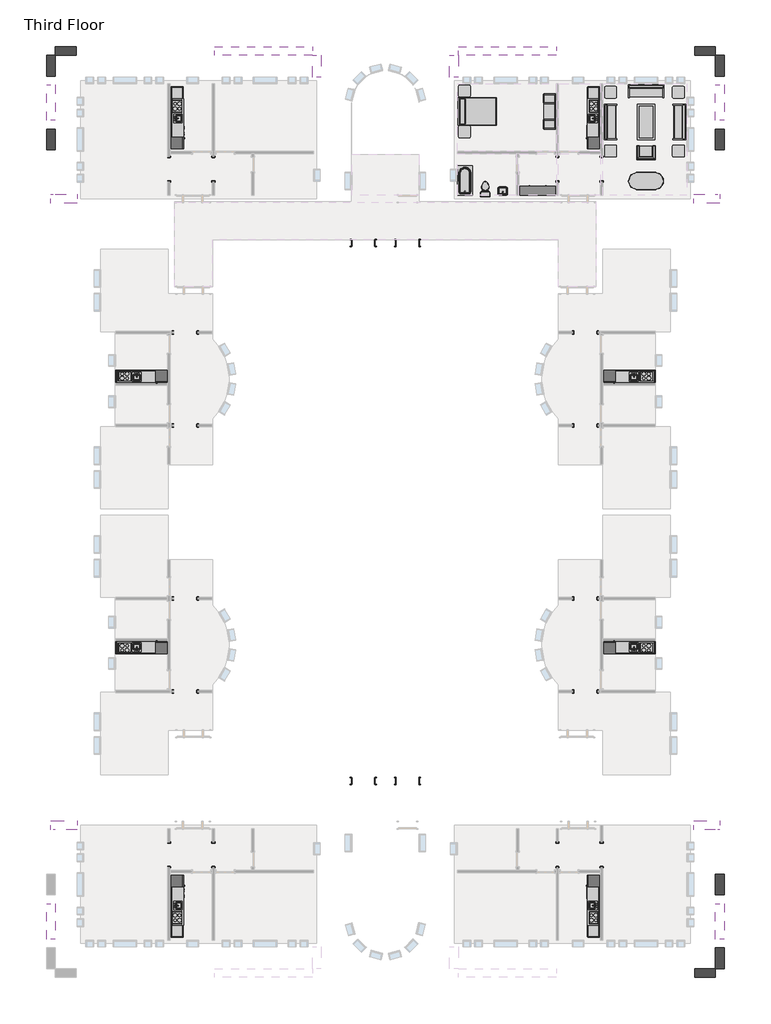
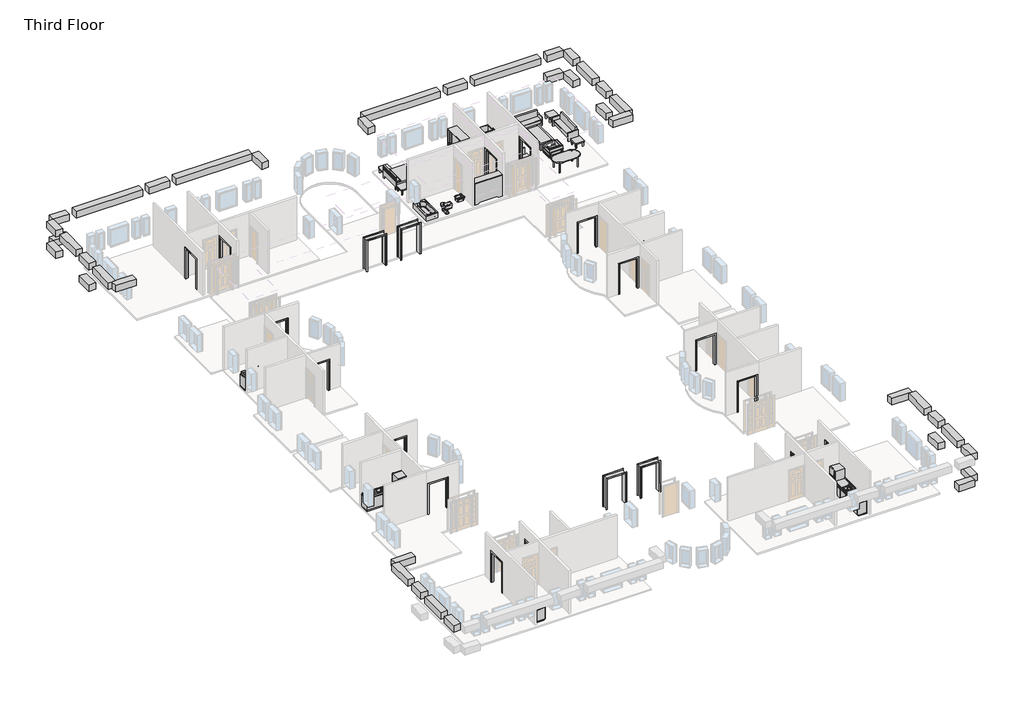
# One storey, part 4 of 4: 28 proxies, 21 beams, 15 furniture elements, 3 flow terminals.
"""IFC4 building model written with IfcOpenShell, lengths in millimetres."""

from ifc_helpers import new_model, si_unit, frame, origin, place, context, project, spatial, polyline, outline, extrude, faceted_brep, transform, mapped, element, save
from components import kitchenette_medium_5_9f73a4de, kitchenette_medium_5_952fb32b, proxy_64a468c4, proxy_b7eaed23, proxy_f44482cc, proxy_c3589814, proxy_d58c73d0, proxy_1659ed5c, flow_terminal_0aeb31e3, toilet_domestic_3d_toilet_domestic_3d_f7549cf7, toilet_domestic_3d_toilet_domestic_3d_183bbd19, tub_rectangular_3d_tub_rectangular_3d_5e45a89b, furniture_096e7f55, chair_corbu_chair_corbu_2764bdef, furniture_7c473f12, furniture_ddc78764, furniture_4ef38d96, furniture_cd93a443, furniture_2c34a4f9, furniture_3a588284, furniture_1befe2a2

model = new_model("IFC4")

# Units and contexts
model_context = context("Model", 3, world=origin())
ifc_project = project(units=[si_unit("LENGTHUNIT", "METRE", prefix="MILLI")], contexts=[model_context])

# Site, building, storey
site = spatial("IfcSite", under=ifc_project)
building = spatial("IfcBuilding", under=site)
storey = spatial("IfcBuildingStorey", under=building, Name="Third Floor", Elevation=6096.0)

# Beams
placement = place(None, origin())
element("IfcBeam", 1, ObjectType="Concrete-Rectangular Beam : 18 x 18", at=placement, inside=storey, context=model_context, shape_type="Brep", body=[
    faceted_brep([(976.3410437, 4121.6316867, 9144.0), (976.3410437, 4578.8316867, 9144.0), (976.3410437, 4578.8316867, 8686.8), (976.3410437, 4121.6316867, 8686.8), (2322.5410437, 4121.6316867, 9144.0), (2322.5410437, 4578.8316867, 9144.0), (2093.9410437, 4578.8316867, 9144.0), (2322.5410437, 4578.8316867, 8686.8), (2093.9410437, 4578.8316867, 8686.8), (2322.5410437, 4121.6316867, 8686.8)], [[[0, 1, 2, 3]], [[1, 0, 4, 5, 6]], [[2, 1, 6, 5, 7, 8]], [[3, 2, 8, 7, 9]], [[0, 3, 9, 4]], [[4, 9, 7, 5]]]),
])
element("IfcBeam", 2, ObjectType="Concrete-Rectangular Beam : 18 x 18", at=placement, inside=storey, context=model_context, shape_type="SweptSolid", body=[
    extrude(outline(polyline([(1027.1410437, 11741.6316867), (1027.1410437, 12198.8316867), (2093.9410437, 12198.8316867), (2093.9410437, 11741.6316867), (1027.1410437, 11741.6316867)])), frame((0.0, 0.0, 7162.8), z_axis=(0.0, 0.0, 1.0), x_axis=(1.0, 0.0, 0.0)), (0.0, 0.0, 1.0), 457.2),
])
element("IfcBeam", 3, ObjectType="Concrete-Rectangular Beam : 18 x 18", at=placement, inside=storey, context=model_context, shape_type="SweptSolid", body=[
    extrude(outline(polyline([(2551.1410437, 10674.8316867), (2093.9410437, 10674.8316867), (2093.9410437, 11741.6316867), (2551.1410437, 11741.6316867), (2551.1410437, 10674.8316867)])), frame((0.0, 0.0, 7162.8), z_axis=(0.0, 0.0, 1.0), x_axis=(1.0, 0.0, 0.0)), (0.0, 0.0, 1.0), 457.2),
])
element("IfcBeam", 4, ObjectType="Concrete-Rectangular Beam : 18 x 18", at=placement, inside=storey, context=model_context, shape_type="SweptSolid", body=[
    extrude(outline(polyline([(2551.1410437, 6864.8316867), (2093.9410437, 6864.8316867), (2093.9410437, 7931.6316867), (2551.1410437, 7931.6316867), (2551.1410437, 6864.8316867)])), frame((0.0, 0.0, 7162.8), z_axis=(0.0, 0.0, 1.0), x_axis=(1.0, 0.0, 0.0)), (0.0, 0.0, 1.0), 457.2),
])
element("IfcBeam", 5, ObjectType="Concrete-Rectangular Beam : 18 x 18", at=placement, inside=storey, context=model_context, shape_type="SweptSolid", body=[
    extrude(outline(polyline([(2093.9410437, 12198.8316867), (2093.9410437, 11741.6316867), (1027.1410437, 11741.6316867), (1027.1410437, 12198.8316867), (2093.9410437, 12198.8316867)])), frame((0.0, 0.0, 8686.8), z_axis=(0.0, 0.0, 1.0), x_axis=(1.0, 0.0, 0.0)), (0.0, 0.0, 1.0), 457.2),
    extrude(outline(polyline([(-11164.8589563, 11741.6316867), (-11164.8589563, 12198.8316867), (-6122.9589563, 12198.8316867), (-6122.9589563, 11741.6316867), (-11164.8589563, 11741.6316867)])), frame((0.0, 0.0, 8686.8), z_axis=(0.0, 0.0, 1.0), x_axis=(1.0, 0.0, 0.0)), (0.0, 0.0, 1.0), 457.2),
    extrude(outline(polyline([(569.9410437, 12198.8316867), (569.9410437, 11741.6316867), (-3862.3589563, 11741.6316867), (-3862.3589563, 12198.8316867), (569.9410437, 12198.8316867)])), frame((0.0, 0.0, 8686.8), z_axis=(0.0, 0.0, 1.0), x_axis=(1.0, 0.0, 0.0)), (0.0, 0.0, 1.0), 457.2),
    extrude(outline(polyline([(-4319.5589563, 12198.8316867), (-4319.5589563, 11741.6316867), (-5665.7589563, 11741.6316867), (-5665.7589563, 12198.8316867), (-4319.5589563, 12198.8316867)])), frame((0.0, 0.0, 8686.8), z_axis=(0.0, 0.0, 1.0), x_axis=(1.0, 0.0, 0.0)), (0.0, 0.0, 1.0), 457.2),
])
element("IfcBeam", 6, ObjectType="Concrete-Rectangular Beam : 18 x 18", at=placement, inside=storey, context=model_context, shape_type="Brep", body=[
    faceted_brep([(2093.9410437, 4578.8316867, 9144.0), (2322.5410437, 4578.8316867, 9144.0), (2551.1410437, 4578.8316867, 9144.0), (2551.1410437, 6407.6316867, 9144.0), (2093.9410437, 6407.6316867, 9144.0), (2093.9410437, 4578.8316867, 8686.8), (2093.9410437, 6407.6316867, 8686.8), (2551.1410437, 4578.8316867, 8686.8), (2322.5410437, 4578.8316867, 8686.8), (2551.1410437, 6407.6316867, 8686.8)], [[[0, 1, 2, 3, 4]], [[5, 0, 4, 6]], [[7, 8, 5, 6, 9]], [[2, 7, 9, 3]], [[2, 1, 0, 5, 8, 7]], [[4, 3, 9, 6]]]),
    faceted_brep([(2551.1410437, 11741.6316867, 9144.0), (2551.1410437, 11741.6316867, 8686.8), (2093.9410437, 11741.6316867, 8686.8), (2093.9410437, 11741.6316867, 9144.0), (2551.1410437, 10674.8316867, 9144.0), (2093.9410437, 10674.8316867, 9144.0), (2093.9410437, 10674.8316867, 8686.8), (2551.1410437, 10674.8316867, 8686.8)], [[[0, 1, 2, 3]], [[4, 5, 6, 7]], [[0, 3, 5, 4]], [[3, 2, 6, 5]], [[2, 1, 7, 6]], [[1, 0, 4, 7]]]),
    faceted_brep([(2093.9410437, 10217.6316867, 9144.0), (2551.1410437, 10217.6316867, 9144.0), (2551.1410437, 10217.6316867, 8686.8), (2093.9410437, 10217.6316867, 8686.8), (2551.1410437, 8388.8316867, 9144.0), (2093.9410437, 8388.8316867, 9144.0), (2093.9410437, 8388.8316867, 8686.8), (2551.1410437, 8388.8316867, 8686.8)], [[[0, 1, 2, 3]], [[4, 5, 6, 7]], [[1, 0, 5, 4]], [[0, 3, 6, 5]], [[3, 2, 7, 6]], [[2, 1, 4, 7]]]),
    faceted_brep([(2551.1410437, 6864.8316867, 9144.0), (2093.9410437, 6864.8316867, 9144.0), (2093.9410437, 6864.8316867, 8686.8), (2551.1410437, 6864.8316867, 8686.8), (2551.1410437, 7931.6316867, 9144.0), (2093.9410437, 7931.6316867, 9144.0), (2093.9410437, 7931.6316867, 8686.8), (2551.1410437, 7931.6316867, 8686.8)], [[[0, 1, 2, 3]], [[1, 0, 4, 5]], [[2, 1, 5, 6]], [[3, 2, 6, 7]], [[0, 3, 7, 4]], [[5, 4, 7, 6]]]),
])
element("IfcBeam", 7, ObjectType="Concrete-Rectangular Beam : 18 x 18", at=placement, inside=storey, context=model_context, shape_type="SweptSolid", body=[
    extrude(outline(polyline([(-11164.8589563, 10624.0316867), (-11622.0589563, 10624.0316867), (-11622.0589563, 11741.6316867), (-11164.8589563, 11741.6316867), (-11164.8589563, 10624.0316867)])), frame((0.0, 0.0, 8686.8), z_axis=(0.0, 0.0, 1.0), x_axis=(1.0, 0.0, 0.0)), (0.0, 0.0, 1.0), 457.2),
])
element("IfcBeam", 8, ObjectType="Concrete-Rectangular Beam : 18 x 18", at=placement, inside=storey, context=model_context, shape_type="Brep", body=[
    faceted_brep([(-30846.6839563, 4121.6316867, 9144.0), (-30846.6839563, 4121.6316867, 8686.8), (-30846.6839563, 4578.8316867, 8686.8), (-30846.6839563, 4578.8316867, 9144.0), (-31964.2839563, 4578.8316867, 9144.0), (-32192.8839563, 4578.8316867, 9144.0), (-32192.8839563, 4121.6316867, 9144.0), (-31964.2839563, 4578.8316867, 8686.8), (-32192.8839563, 4578.8316867, 8686.8), (-32192.8839563, 4121.6316867, 8686.8)], [[[0, 1, 2, 3]], [[3, 4, 5, 6, 0]], [[2, 7, 8, 5, 4, 3]], [[1, 9, 8, 7, 2]], [[0, 6, 9, 1]], [[6, 5, 8, 9]]]),
])
element("IfcBeam", 9, ObjectType="Concrete-Rectangular Beam : 18 x 18", at=placement, inside=storey, context=model_context, shape_type="SweptSolid", body=[
    extrude(outline(polyline([(-30897.4839563, 11741.6316867), (-31964.2839563, 11741.6316867), (-31964.2839563, 12198.8316867), (-30897.4839563, 12198.8316867), (-30897.4839563, 11741.6316867)])), frame((0.0, 0.0, 7162.8), z_axis=(0.0, 0.0, 1.0), x_axis=(1.0, 0.0, 0.0)), (0.0, 0.0, 1.0), 457.2),
])
element("IfcBeam", 10, ObjectType="Concrete-Rectangular Beam : 18 x 18", at=placement, inside=storey, context=model_context, shape_type="SweptSolid", body=[
    extrude(outline(polyline([(-32421.4839563, 10674.8316867), (-32421.4839563, 11741.6316867), (-31964.2839563, 11741.6316867), (-31964.2839563, 10674.8316867), (-32421.4839563, 10674.8316867)])), frame((0.0, 0.0, 7162.8), z_axis=(0.0, 0.0, 1.0), x_axis=(1.0, 0.0, 0.0)), (0.0, 0.0, 1.0), 457.2),
])
element("IfcBeam", 11, ObjectType="Concrete-Rectangular Beam : 18 x 18", at=placement, inside=storey, context=model_context, shape_type="SweptSolid", body=[
    extrude(outline(polyline([(-32421.4839563, 6864.8316867), (-32421.4839563, 7931.6316867), (-31964.2839563, 7931.6316867), (-31964.2839563, 6864.8316867), (-32421.4839563, 6864.8316867)])), frame((0.0, 0.0, 7162.8), z_axis=(0.0, 0.0, 1.0), x_axis=(1.0, 0.0, 0.0)), (0.0, 0.0, 1.0), 457.2),
])
element("IfcBeam", 12, ObjectType="Concrete-Rectangular Beam : 18 x 18", at=placement, inside=storey, context=model_context, shape_type="SweptSolid", body=[
    extrude(outline(polyline([(-31964.2839563, 11741.6316867), (-31964.2839563, 12198.8316867), (-30897.4839563, 12198.8316867), (-30897.4839563, 11741.6316867), (-31964.2839563, 11741.6316867)])), frame((0.0, 0.0, 8686.8), z_axis=(0.0, 0.0, 1.0), x_axis=(1.0, 0.0, 0.0)), (0.0, 0.0, 1.0), 457.2),
    extrude(outline(polyline([(-18705.4839563, 12198.8316867), (-18705.4839563, 11741.6316867), (-23747.3839563, 11741.6316867), (-23747.3839563, 12198.8316867), (-18705.4839563, 12198.8316867)])), frame((0.0, 0.0, 8686.8), z_axis=(0.0, 0.0, 1.0), x_axis=(1.0, 0.0, 0.0)), (0.0, 0.0, 1.0), 457.2),
    extrude(outline(polyline([(-30440.2839563, 11741.6316867), (-30440.2839563, 12198.8316867), (-26007.9839563, 12198.8316867), (-26007.9839563, 11741.6316867), (-30440.2839563, 11741.6316867)])), frame((0.0, 0.0, 8686.8), z_axis=(0.0, 0.0, 1.0), x_axis=(1.0, 0.0, 0.0)), (0.0, 0.0, 1.0), 457.2),
    extrude(outline(polyline([(-25550.7839563, 11741.6316867), (-25550.7839563, 12198.8316867), (-24204.5839563, 12198.8316867), (-24204.5839563, 11741.6316867), (-25550.7839563, 11741.6316867)])), frame((0.0, 0.0, 8686.8), z_axis=(0.0, 0.0, 1.0), x_axis=(1.0, 0.0, 0.0)), (0.0, 0.0, 1.0), 457.2),
])
element("IfcBeam", 13, ObjectType="Concrete-Rectangular Beam : 18 x 18", at=placement, inside=storey, context=model_context, shape_type="Brep", body=[
    faceted_brep([(-32421.4839563, 4578.8316867, 9144.0), (-32192.8839563, 4578.8316867, 9144.0), (-31964.2839563, 4578.8316867, 9144.0), (-31964.2839563, 6407.6316867, 9144.0), (-32421.4839563, 6407.6316867, 9144.0), (-31964.2839563, 4578.8316867, 8686.8), (-31964.2839563, 6407.6316867, 8686.8), (-32192.8839563, 4578.8316867, 8686.8), (-32421.4839563, 4578.8316867, 8686.8), (-32421.4839563, 6407.6316867, 8686.8)], [[[0, 1, 2, 3, 4]], [[2, 5, 6, 3]], [[5, 7, 8, 9, 6]], [[8, 0, 4, 9]], [[0, 8, 7, 5, 2, 1]], [[4, 3, 6, 9]]]),
    faceted_brep([(-32421.4839563, 11741.6316867, 9144.0), (-31964.2839563, 11741.6316867, 9144.0), (-31964.2839563, 11741.6316867, 8686.8), (-32421.4839563, 11741.6316867, 8686.8), (-31964.2839563, 10674.8316867, 9144.0), (-32421.4839563, 10674.8316867, 9144.0), (-32421.4839563, 10674.8316867, 8686.8), (-31964.2839563, 10674.8316867, 8686.8)], [[[0, 1, 2, 3]], [[4, 5, 6, 7]], [[1, 0, 5, 4]], [[2, 1, 4, 7]], [[3, 2, 7, 6]], [[0, 3, 6, 5]]]),
    faceted_brep([(-32421.4839563, 10217.6316867, 9144.0), (-31964.2839563, 10217.6316867, 9144.0), (-31964.2839563, 10217.6316867, 8686.8), (-32421.4839563, 10217.6316867, 8686.8), (-31964.2839563, 8388.8316867, 9144.0), (-32421.4839563, 8388.8316867, 9144.0), (-32421.4839563, 8388.8316867, 8686.8), (-31964.2839563, 8388.8316867, 8686.8)], [[[0, 1, 2, 3]], [[4, 5, 6, 7]], [[1, 0, 5, 4]], [[2, 1, 4, 7]], [[3, 2, 7, 6]], [[0, 3, 6, 5]]]),
    faceted_brep([(-31964.2839563, 6864.8316867, 9144.0), (-32421.4839563, 6864.8316867, 9144.0), (-32421.4839563, 6864.8316867, 8686.8), (-31964.2839563, 6864.8316867, 8686.8), (-31964.2839563, 7931.6316867, 9144.0), (-32421.4839563, 7931.6316867, 9144.0), (-31964.2839563, 7931.6316867, 8686.8), (-32421.4839563, 7931.6316867, 8686.8)], [[[0, 1, 2, 3]], [[1, 0, 4, 5]], [[0, 3, 6, 4]], [[3, 2, 7, 6]], [[2, 1, 5, 7]], [[5, 4, 6, 7]]]),
])
element("IfcBeam", 14, ObjectType="Concrete-Rectangular Beam : 18 x 18", at=placement, inside=storey, context=model_context, shape_type="SweptSolid", body=[
    extrude(outline(polyline([(-18248.2839563, 10624.0316867), (-18705.4839563, 10624.0316867), (-18705.4839563, 11741.6316867), (-18248.2839563, 11741.6316867), (-18248.2839563, 10624.0316867)])), frame((0.0, 0.0, 8686.8), z_axis=(0.0, 0.0, 1.0), x_axis=(1.0, 0.0, 0.0)), (0.0, 0.0, 1.0), 457.2),
])
element("IfcBeam", 15, ObjectType="Concrete-Rectangular Beam : 18 x 18", at=placement, inside=storey, context=model_context, shape_type="Brep", body=[
    faceted_brep([(976.3410437, -27729.9683133, 9144.0), (976.3410437, -27729.9683133, 8686.8), (976.3410437, -28187.1683133, 8686.8), (976.3410437, -28187.1683133, 9144.0), (2093.9410437, -28187.1683133, 9144.0), (2322.5410437, -28187.1683133, 9144.0), (2322.5410437, -27729.9683133, 9144.0), (2093.9410437, -28187.1683133, 8686.8), (2322.5410437, -28187.1683133, 8686.8), (2322.5410437, -27729.9683133, 8686.8)], [[[0, 1, 2, 3]], [[3, 4, 5, 6, 0]], [[2, 7, 8, 5, 4, 3]], [[1, 9, 8, 7, 2]], [[0, 6, 9, 1]], [[6, 5, 8, 9]]]),
])
element("IfcBeam", 16, ObjectType="Concrete-Rectangular Beam : 18 x 18", at=placement, inside=storey, context=model_context, shape_type="SweptSolid", body=[
    extrude(outline(polyline([(1027.1410437, -35349.9683133), (2093.9410437, -35349.9683133), (2093.9410437, -35807.1683133), (1027.1410437, -35807.1683133), (1027.1410437, -35349.9683133)])), frame((0.0, 0.0, 7162.8), z_axis=(0.0, 0.0, 1.0), x_axis=(1.0, 0.0, 0.0)), (0.0, 0.0, 1.0), 457.2),
])
element("IfcBeam", 17, ObjectType="Concrete-Rectangular Beam : 18 x 18", at=placement, inside=storey, context=model_context, shape_type="SweptSolid", body=[
    extrude(outline(polyline([(2551.1410437, -34283.1683133), (2551.1410437, -35349.9683133), (2093.9410437, -35349.9683133), (2093.9410437, -34283.1683133), (2551.1410437, -34283.1683133)])), frame((0.0, 0.0, 7162.8), z_axis=(0.0, 0.0, 1.0), x_axis=(1.0, 0.0, 0.0)), (0.0, 0.0, 1.0), 457.2),
])
element("IfcBeam", 18, ObjectType="Concrete-Rectangular Beam : 18 x 18", at=placement, inside=storey, context=model_context, shape_type="SweptSolid", body=[
    extrude(outline(polyline([(2551.1410437, -30473.1683133), (2551.1410437, -31539.9683133), (2093.9410437, -31539.9683133), (2093.9410437, -30473.1683133), (2551.1410437, -30473.1683133)])), frame((0.0, 0.0, 7162.8), z_axis=(0.0, 0.0, 1.0), x_axis=(1.0, 0.0, 0.0)), (0.0, 0.0, 1.0), 457.2),
])
element("IfcBeam", 19, ObjectType="Concrete-Rectangular Beam : 18 x 18", at=placement, inside=storey, context=model_context, shape_type="Brep", body=[
    faceted_brep([(2551.1410437, -28187.1683133, 9144.0), (2322.5410437, -28187.1683133, 9144.0), (2093.9410437, -28187.1683133, 9144.0), (2093.9410437, -30015.9683133, 9144.0), (2551.1410437, -30015.9683133, 9144.0), (2093.9410437, -28187.1683133, 8686.8), (2093.9410437, -30015.9683133, 8686.8), (2322.5410437, -28187.1683133, 8686.8), (2551.1410437, -28187.1683133, 8686.8), (2551.1410437, -30015.9683133, 8686.8)], [[[0, 1, 2, 3, 4]], [[2, 5, 6, 3]], [[5, 7, 8, 9, 6]], [[8, 0, 4, 9]], [[0, 8, 7, 5, 2, 1]], [[4, 3, 6, 9]]]),
    faceted_brep([(2551.1410437, -35349.9683133, 9144.0), (2093.9410437, -35349.9683133, 9144.0), (2093.9410437, -35349.9683133, 8686.8), (2551.1410437, -35349.9683133, 8686.8), (2093.9410437, -34283.1683133, 9144.0), (2551.1410437, -34283.1683133, 9144.0), (2551.1410437, -34283.1683133, 8686.8), (2093.9410437, -34283.1683133, 8686.8)], [[[0, 1, 2, 3]], [[4, 5, 6, 7]], [[1, 0, 5, 4]], [[2, 1, 4, 7]], [[3, 2, 7, 6]], [[0, 3, 6, 5]]]),
    faceted_brep([(2551.1410437, -33825.9683133, 9144.0), (2093.9410437, -33825.9683133, 9144.0), (2093.9410437, -33825.9683133, 8686.8), (2551.1410437, -33825.9683133, 8686.8), (2093.9410437, -31997.1683133, 9144.0), (2551.1410437, -31997.1683133, 9144.0), (2551.1410437, -31997.1683133, 8686.8), (2093.9410437, -31997.1683133, 8686.8)], [[[0, 1, 2, 3]], [[4, 5, 6, 7]], [[1, 0, 5, 4]], [[2, 1, 4, 7]], [[3, 2, 7, 6]], [[0, 3, 6, 5]]]),
    faceted_brep([(2093.9410437, -30473.1683133, 9144.0), (2551.1410437, -30473.1683133, 9144.0), (2551.1410437, -30473.1683133, 8686.8), (2093.9410437, -30473.1683133, 8686.8), (2093.9410437, -31539.9683133, 9144.0), (2551.1410437, -31539.9683133, 9144.0), (2093.9410437, -31539.9683133, 8686.8), (2551.1410437, -31539.9683133, 8686.8)], [[[0, 1, 2, 3]], [[1, 0, 4, 5]], [[0, 3, 6, 4]], [[3, 2, 7, 6]], [[2, 1, 5, 7]], [[5, 4, 6, 7]]]),
])
element("IfcBeam", 20, ObjectType="Concrete-Rectangular Beam : 18 x 18", at=placement, inside=storey, context=model_context, shape_type="Brep", body=[
    faceted_brep([(-30846.6839563, -27729.9683133, 9144.0), (-30846.6839563, -28187.1683133, 9144.0), (-30846.6839563, -28187.1683133, 8686.8), (-30846.6839563, -27729.9683133, 8686.8), (-32192.8839563, -27729.9683133, 9144.0), (-32192.8839563, -28187.1683133, 9144.0), (-31964.2839563, -28187.1683133, 9144.0), (-32192.8839563, -28187.1683133, 8686.8), (-31964.2839563, -28187.1683133, 8686.8), (-32192.8839563, -27729.9683133, 8686.8)], [[[0, 1, 2, 3]], [[1, 0, 4, 5, 6]], [[2, 1, 6, 5, 7, 8]], [[3, 2, 8, 7, 9]], [[0, 3, 9, 4]], [[4, 9, 7, 5]]]),
])
element("IfcBeam", 21, ObjectType="Concrete-Rectangular Beam : 18 x 18", at=placement, inside=storey, context=model_context, shape_type="Brep", body=[
    faceted_brep([(-31964.2839563, -28187.1683133, 9144.0), (-32192.8839563, -28187.1683133, 9144.0), (-32421.4839563, -28187.1683133, 9144.0), (-32421.4839563, -30015.9683133, 9144.0), (-31964.2839563, -30015.9683133, 9144.0), (-31964.2839563, -28187.1683133, 8686.8), (-31964.2839563, -30015.9683133, 8686.8), (-32421.4839563, -28187.1683133, 8686.8), (-32192.8839563, -28187.1683133, 8686.8), (-32421.4839563, -30015.9683133, 8686.8)], [[[0, 1, 2, 3, 4]], [[5, 0, 4, 6]], [[7, 8, 5, 6, 9]], [[2, 7, 9, 3]], [[2, 1, 0, 5, 8, 7]], [[4, 3, 9, 6]]]),
    faceted_brep([(-32421.4839563, -35349.9683133, 9144.0), (-32421.4839563, -35349.9683133, 8686.8), (-31964.2839563, -35349.9683133, 8686.8), (-31964.2839563, -35349.9683133, 9144.0), (-32421.4839563, -34283.1683133, 9144.0), (-31964.2839563, -34283.1683133, 9144.0), (-31964.2839563, -34283.1683133, 8686.8), (-32421.4839563, -34283.1683133, 8686.8)], [[[0, 1, 2, 3]], [[4, 5, 6, 7]], [[0, 3, 5, 4]], [[3, 2, 6, 5]], [[2, 1, 7, 6]], [[1, 0, 4, 7]]]),
    faceted_brep([(-31964.2839563, -33825.9683133, 9144.0), (-32421.4839563, -33825.9683133, 9144.0), (-32421.4839563, -33825.9683133, 8686.8), (-31964.2839563, -33825.9683133, 8686.8), (-32421.4839563, -31997.1683133, 9144.0), (-31964.2839563, -31997.1683133, 9144.0), (-31964.2839563, -31997.1683133, 8686.8), (-32421.4839563, -31997.1683133, 8686.8)], [[[0, 1, 2, 3]], [[4, 5, 6, 7]], [[1, 0, 5, 4]], [[0, 3, 6, 5]], [[3, 2, 7, 6]], [[2, 1, 4, 7]]]),
    faceted_brep([(-32421.4839563, -30473.1683133, 9144.0), (-31964.2839563, -30473.1683133, 9144.0), (-31964.2839563, -30473.1683133, 8686.8), (-32421.4839563, -30473.1683133, 8686.8), (-32421.4839563, -31539.9683133, 9144.0), (-31964.2839563, -31539.9683133, 9144.0), (-31964.2839563, -31539.9683133, 8686.8), (-32421.4839563, -31539.9683133, 8686.8)], [[[0, 1, 2, 3]], [[1, 0, 4, 5]], [[2, 1, 5, 6]], [[3, 2, 6, 7]], [[0, 3, 7, 4]], [[5, 4, 7, 6]]]),
])

# Proxies
kitchenette_medium_5_shape = kitchenette_medium_5_9f73a4de(model_context)
element("IfcBuildingElementProxy", 22, Name="Kitchenette - Medium : 5'", ObjectType="Kitchenette - Medium : 5'", at=placement, inside=storey, context=model_context, shape_type="MappedRepresentation", body=[
    mapped(kitchenette_medium_5_shape, transform((-28112.6966612, -4494.4827414, 6096.0), x_axis=(1.0, 0.0, 0.0), y_axis=(0.0, 1.0, 0.0), z_axis=(0.0, 0.0, 1.0))),
])
element("IfcBuildingElementProxy", 23, Name="Kitchenette - Medium : 5'", ObjectType="Kitchenette - Medium : 5'", at=placement, inside=storey, context=model_context, shape_type="MappedRepresentation", body=[
    mapped(kitchenette_medium_5_shape, transform((-1757.6462514, -19113.8538852, 6096.0), x_axis=(-1.0, 0.0, 0.0), y_axis=(0.0, -1.0, 0.0), z_axis=(0.0, 0.0, 1.0))),
])
kitchenette_medium_5_2_shape = kitchenette_medium_5_952fb32b(model_context)
element("IfcBuildingElementProxy", 24, Name="Kitchenette - Medium : 5'", ObjectType="Kitchenette - Medium : 5'", at=placement, inside=storey, context=model_context, shape_type="MappedRepresentation", body=[
    mapped(kitchenette_medium_5_2_shape, transform((-1757.6462514, -4494.4827414, 6096.0), x_axis=(-1.0, 0.0, 0.0), y_axis=(0.0, -1.0, 0.0), z_axis=(0.0, 0.0, 1.0))),
])
element("IfcBuildingElementProxy", 25, Name="Kitchenette - Medium : 5'", ObjectType="Kitchenette - Medium : 5'", at=placement, inside=storey, context=model_context, shape_type="MappedRepresentation", body=[
    mapped(kitchenette_medium_5_2_shape, transform((-28112.6966612, -19113.8538852, 6096.0), x_axis=(1.0, 0.0, 0.0), y_axis=(0.0, 1.0, 0.0), z_axis=(0.0, 0.0, 1.0))),
])
proxy_shape = proxy_64a468c4(model_context)
element("IfcBuildingElementProxy", 26, Name="Kitchenette - Medium : 8'6\"", ObjectType="Kitchenette - Medium : 8'6\"", at=placement, inside=storey, context=model_context, shape_type="MappedRepresentation", body=[
    mapped(proxy_shape, transform((-3887.7589563, 8837.7956433, 6096.0), x_axis=(0.0, -1.0, 0.0), y_axis=(1.0, 0.0, 0.0), z_axis=(0.0, 0.0, 1.0))),
])
element("IfcBuildingElementProxy", 27, Name="Kitchenette - Medium : 8'6\"", ObjectType="Kitchenette - Medium : 8'6\"", at=placement, inside=storey, context=model_context, shape_type="MappedRepresentation", body=[
    mapped(proxy_shape, transform((-25982.5839563, -32446.1322699, 6096.0), x_axis=(0.0, 1.0, 0.0), y_axis=(-1.0, 0.0, 0.0), z_axis=(0.0, 0.0, 1.0))),
])
proxy_2_shape = proxy_b7eaed23(model_context)
element("IfcBuildingElementProxy", 28, Name="Kitchenette - Medium : 8'6\"", ObjectType="Kitchenette - Medium : 8'6\"", at=placement, inside=storey, context=model_context, shape_type="MappedRepresentation", body=[
    mapped(proxy_2_shape, transform((-25982.5839563, 8837.7956433, 6096.0), x_axis=(0.0, -1.0, 0.0), y_axis=(1.0, 0.0, 0.0), z_axis=(0.0, 0.0, 1.0))),
])
element("IfcBuildingElementProxy", 29, Name="Kitchenette - Medium : 8'6\"", ObjectType="Kitchenette - Medium : 8'6\"", at=placement, inside=storey, context=model_context, shape_type="MappedRepresentation", body=[
    mapped(proxy_2_shape, transform((-3887.7589563, -32446.1322699, 6096.0), x_axis=(0.0, 1.0, 0.0), y_axis=(-1.0, 0.0, 0.0), z_axis=(0.0, 0.0, 1.0))),
])
proxy_3_shape = proxy_f44482cc(model_context)
element("IfcBuildingElementProxy", 30, Name="Opening-Cased : 48\" x 84\"", ObjectType="Opening-Cased : 48\" x 84\"", at=placement, inside=storey, context=model_context, shape_type="MappedRepresentation", body=[
    mapped(proxy_3_shape, transform((-3773.4589563, 5882.4203434, 6096.0), x_axis=(0.0, 1.0, 0.0), y_axis=(-1.0, 0.0, 0.0), z_axis=(0.0, 0.0, 1.0))),
])
element("IfcBuildingElementProxy", 31, Name="Opening-Cased : 48\" x 84\"", ObjectType="Opening-Cased : 48\" x 84\"", at=placement, inside=storey, context=model_context, shape_type="MappedRepresentation", body=[
    mapped(proxy_3_shape, transform((-6059.4589563, 5866.04303, 6096.0), x_axis=(0.0, -1.0, 0.0), y_axis=(1.0, 0.0, 0.0), z_axis=(0.0, 0.0, 1.0))),
])
element("IfcBuildingElementProxy", 32, Name="Opening-Cased : 48\" x 84\"", ObjectType="Opening-Cased : 48\" x 84\"", at=placement, inside=storey, context=model_context, shape_type="MappedRepresentation", body=[
    mapped(proxy_3_shape, transform((-25250.4952996, -7344.8808133, 6096.0), x_axis=(1.0, 0.0, 0.0), y_axis=(0.0, 1.0, 0.0), z_axis=(0.0, 0.0, 1.0))),
])
element("IfcBuildingElementProxy", 33, Name="Opening-Cased : 48\" x 84\"", ObjectType="Opening-Cased : 48\" x 84\"", at=placement, inside=storey, context=model_context, shape_type="MappedRepresentation", body=[
    mapped(proxy_3_shape, transform((-25266.872613, -2547.4558133, 6096.0), x_axis=(-1.0, 0.0, 0.0), y_axis=(0.0, -1.0, 0.0), z_axis=(0.0, 0.0, 1.0))),
])
element("IfcBuildingElementProxy", 34, Name="Opening-Cased : 48\" x 84\"", ObjectType="Opening-Cased : 48\" x 84\"", at=placement, inside=storey, context=model_context, shape_type="MappedRepresentation", body=[
    mapped(proxy_3_shape, transform((-4619.847613, -16263.4558133, 6096.0), x_axis=(-1.0, 0.0, 0.0), y_axis=(0.0, -1.0, 0.0), z_axis=(0.0, 0.0, 1.0))),
])
element("IfcBuildingElementProxy", 35, Name="Opening-Cased : 48\" x 84\"", ObjectType="Opening-Cased : 48\" x 84\"", at=placement, inside=storey, context=model_context, shape_type="MappedRepresentation", body=[
    mapped(proxy_3_shape, transform((-4603.4702996, -21060.8808133, 6096.0), x_axis=(1.0, 0.0, 0.0), y_axis=(0.0, 1.0, 0.0), z_axis=(0.0, 0.0, 1.0))),
])
element("IfcBuildingElementProxy", 36, Name="Opening-Cased : 48\" x 84\"", ObjectType="Opening-Cased : 48\" x 84\"", at=placement, inside=storey, context=model_context, shape_type="MappedRepresentation", body=[
    mapped(proxy_3_shape, transform((-26096.8839563, -29490.75697, 6096.0), x_axis=(0.0, -1.0, 0.0), y_axis=(1.0, 0.0, 0.0), z_axis=(0.0, 0.0, 1.0))),
])
element("IfcBuildingElementProxy", 37, Name="Opening-Cased : 48\" x 84\"", ObjectType="Opening-Cased : 48\" x 84\"", at=placement, inside=storey, context=model_context, shape_type="MappedRepresentation", body=[
    mapped(proxy_3_shape, transform((-23810.8839563, -29474.3796566, 6096.0), x_axis=(0.0, 1.0, 0.0), y_axis=(-1.0, 0.0, 0.0), z_axis=(0.0, 0.0, 1.0))),
])
proxy_4_shape = proxy_c3589814(model_context)
element("IfcBuildingElementProxy", 38, Name="Opening-Cased : 48\" x 84\"", ObjectType="Opening-Cased : 48\" x 84\"", at=placement, inside=storey, context=model_context, shape_type="MappedRepresentation", body=[
    mapped(proxy_4_shape, transform((-16086.360113, 2064.2316867, 6096.0), x_axis=(-1.0, 0.0, 0.0), y_axis=(0.0, -1.0, 0.0), z_axis=(0.0, 0.0, 1.0))),
])
element("IfcBuildingElementProxy", 39, Name="Opening-Cased : 48\" x 84\"", ObjectType="Opening-Cased : 48\" x 84\"", at=placement, inside=storey, context=model_context, shape_type="MappedRepresentation", body=[
    mapped(proxy_4_shape, transform((-13800.360113, 2064.2316867, 6096.0), x_axis=(-1.0, 0.0, 0.0), y_axis=(0.0, -1.0, 0.0), z_axis=(0.0, 0.0, 1.0))),
])
proxy_5_shape = proxy_d58c73d0(model_context)
element("IfcBuildingElementProxy", 40, Name="Opening-Cased : 48\" x 84\"", ObjectType="Opening-Cased : 48\" x 84\"", at=placement, inside=storey, context=model_context, shape_type="MappedRepresentation", body=[
    mapped(proxy_5_shape, transform((-4619.847613, -7344.8808133, 6096.0), x_axis=(-1.0, 0.0, 0.0), y_axis=(0.0, -1.0, 0.0), z_axis=(0.0, 0.0, 1.0))),
])
element("IfcBuildingElementProxy", 41, Name="Opening-Cased : 48\" x 84\"", ObjectType="Opening-Cased : 48\" x 84\"", at=placement, inside=storey, context=model_context, shape_type="MappedRepresentation", body=[
    mapped(proxy_5_shape, transform((-4603.4702996, -2547.4558133, 6096.0), x_axis=(1.0, 0.0, 0.0), y_axis=(0.0, 1.0, 0.0), z_axis=(0.0, 0.0, 1.0))),
])
element("IfcBuildingElementProxy", 42, Name="Opening-Cased : 48\" x 84\"", ObjectType="Opening-Cased : 48\" x 84\"", at=placement, inside=storey, context=model_context, shape_type="MappedRepresentation", body=[
    mapped(proxy_5_shape, transform((-26096.8839563, 5882.4203434, 6096.0), x_axis=(0.0, 1.0, 0.0), y_axis=(-1.0, 0.0, 0.0), z_axis=(0.0, 0.0, 1.0))),
])
element("IfcBuildingElementProxy", 43, Name="Opening-Cased : 48\" x 84\"", ObjectType="Opening-Cased : 48\" x 84\"", at=placement, inside=storey, context=model_context, shape_type="MappedRepresentation", body=[
    mapped(proxy_5_shape, transform((-23810.8839563, 5866.04303, 6096.0), x_axis=(0.0, -1.0, 0.0), y_axis=(1.0, 0.0, 0.0), z_axis=(0.0, 0.0, 1.0))),
])
element("IfcBuildingElementProxy", 44, Name="Opening-Cased : 48\" x 84\"", ObjectType="Opening-Cased : 48\" x 84\"", at=placement, inside=storey, context=model_context, shape_type="MappedRepresentation", body=[
    mapped(proxy_5_shape, transform((-3773.4589563, -29490.75697, 6096.0), x_axis=(0.0, -1.0, 0.0), y_axis=(1.0, 0.0, 0.0), z_axis=(0.0, 0.0, 1.0))),
])
element("IfcBuildingElementProxy", 45, Name="Opening-Cased : 48\" x 84\"", ObjectType="Opening-Cased : 48\" x 84\"", at=placement, inside=storey, context=model_context, shape_type="MappedRepresentation", body=[
    mapped(proxy_5_shape, transform((-6059.4589563, -29474.3796566, 6096.0), x_axis=(0.0, 1.0, 0.0), y_axis=(-1.0, 0.0, 0.0), z_axis=(0.0, 0.0, 1.0))),
])
element("IfcBuildingElementProxy", 46, Name="Opening-Cased : 48\" x 84\"", ObjectType="Opening-Cased : 48\" x 84\"", at=placement, inside=storey, context=model_context, shape_type="MappedRepresentation", body=[
    mapped(proxy_5_shape, transform((-25250.4952996, -16263.4558133, 6096.0), x_axis=(1.0, 0.0, 0.0), y_axis=(0.0, 1.0, 0.0), z_axis=(0.0, 0.0, 1.0))),
])
element("IfcBuildingElementProxy", 47, Name="Opening-Cased : 48\" x 84\"", ObjectType="Opening-Cased : 48\" x 84\"", at=placement, inside=storey, context=model_context, shape_type="MappedRepresentation", body=[
    mapped(proxy_5_shape, transform((-25266.872613, -21060.8808133, 6096.0), x_axis=(-1.0, 0.0, 0.0), y_axis=(0.0, -1.0, 0.0), z_axis=(0.0, 0.0, 1.0))),
])
proxy_6_shape = proxy_1659ed5c(model_context)
element("IfcBuildingElementProxy", 48, Name="Opening-Cased : 48\" x 84\"", ObjectType="Opening-Cased : 48\" x 84\"", at=placement, inside=storey, context=model_context, shape_type="MappedRepresentation", body=[
    mapped(proxy_6_shape, transform((-16086.360113, -25672.5683133, 6096.0), x_axis=(-1.0, 0.0, 0.0), y_axis=(0.0, -1.0, 0.0), z_axis=(0.0, 0.0, 1.0))),
])
element("IfcBuildingElementProxy", 49, Name="Opening-Cased : 48\" x 84\"", ObjectType="Opening-Cased : 48\" x 84\"", at=placement, inside=storey, context=model_context, shape_type="MappedRepresentation", body=[
    mapped(proxy_6_shape, transform((-13800.360113, -25672.5683133, 6096.0), x_axis=(-1.0, 0.0, 0.0), y_axis=(0.0, -1.0, 0.0), z_axis=(0.0, 0.0, 1.0))),
])

# Flow terminals
flow_terminal_shape = flow_terminal_0aeb31e3(model_context)
element("IfcFlowTerminal", 50, ObjectType="Sink Vanity-Square : 24\" x 19\"", at=placement, inside=storey, context=model_context, shape_type="MappedRepresentation", body=[
    mapped(flow_terminal_shape, transform((-8864.7572157, 4706.5895878, 6096.0), x_axis=(-1.0, 0.0, 0.0), y_axis=(0.0, -1.0, 0.0), z_axis=(0.0, 0.0, 1.0))),
])
toilet_domestic_3d_toilet_domestic_3d_shape = toilet_domestic_3d_toilet_domestic_3d_f7549cf7(model_context)
toilet_domestic_3d_toilet_domestic_3d_2_shape = toilet_domestic_3d_toilet_domestic_3d_183bbd19(model_context)
element("IfcFlowTerminal", 51, ObjectType="Toilet-Domestic-3D : Toilet-Domestic-3D", at=placement, inside=storey, context=model_context, shape_type="MappedRepresentation", body=[
    mapped(toilet_domestic_3d_toilet_domestic_3d_shape, transform((-9782.1466587, 4940.866411, 6096.0), x_axis=(-1.0000000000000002, 0.0, 0.0), y_axis=(0.0, -1.0000000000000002, 0.0), z_axis=(0.0, 0.0, 1.0))),
    mapped(toilet_domestic_3d_toilet_domestic_3d_2_shape, transform((-9782.1466587, 4940.866411, 6096.0), x_axis=(-1.0000000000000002, 0.0, 0.0), y_axis=(0.0, -1.0000000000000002, 0.0), z_axis=(0.0, 0.0, 1.0))),
])
tub_rectangular_3d_tub_rectangular_3d_shape = tub_rectangular_3d_tub_rectangular_3d_5e45a89b(model_context)
element("IfcFlowTerminal", 52, ObjectType="Tub-Rectangular-3D : Tub-Rectangular-3D", at=placement, inside=storey, context=model_context, shape_type="MappedRepresentation", body=[
    mapped(tub_rectangular_3d_tub_rectangular_3d_shape, transform((-11393.4589563, 5637.0471554, 6096.0), x_axis=(0.0, 1.0, 0.0), y_axis=(-1.0, 0.0, 0.0), z_axis=(0.0, 0.0, 1.0))),
])

# Furniture
furniture_shape = furniture_096e7f55(model_context)
element("IfcFurniture", 53, ObjectType="Bed-Shaker : Double 56\" x 78\"", at=placement, inside=storey, context=model_context, shape_type="MappedRepresentation", body=[
    mapped(furniture_shape, transform((-11183.1982802, 8871.8755561, 6096.0), x_axis=(0.0, 1.0, 0.0), y_axis=(-1.0, 0.0, 0.0), z_axis=(0.0, 0.0, 1.0))),
])
chair_corbu_chair_corbu_shape = chair_corbu_chair_corbu_2764bdef(model_context)
element("IfcFurniture", 54, ObjectType="Chair-Corbu : Chair-Corbu", at=placement, inside=storey, context=model_context, shape_type="MappedRepresentation", body=[
    mapped(chair_corbu_chair_corbu_shape, transform((-914.0851858, 7193.4962359, 6096.0), x_axis=(-1.0, 0.0, 0.0), y_axis=(0.0, -1.0, 0.0), z_axis=(0.0, 0.0, 1.0))),
])
furniture_2_shape = furniture_7c473f12(model_context)
element("IfcFurniture", 55, ObjectType="Dresser : 72\" x 60\" x 18\"", at=placement, inside=storey, context=model_context, shape_type="MappedRepresentation", body=[
    mapped(furniture_2_shape, transform((-7344.6522161, 4404.5812326, 6096.0), x_axis=(-1.0, 0.0, 0.0), y_axis=(0.0, -1.0, 0.0), z_axis=(0.0, 0.0, 1.0))),
])
furniture_3_shape = furniture_ddc78764(model_context)
element("IfcFurniture", 56, ObjectType="Entertainment Center : 72\" x 72\" x 24\"", at=placement, inside=storey, context=model_context, shape_type="MappedRepresentation", body=[
    mapped(furniture_3_shape, transform((-6059.4589563, 8852.8255561, 6096.0), x_axis=(0.0, -1.0, 0.0), y_axis=(1.0, 0.0, 0.0), z_axis=(0.0, 0.0, 1.0))),
])
furniture_4_shape = furniture_4ef38d96(model_context)
element("IfcFurniture", 57, ObjectType="Sofa : 72\"", at=placement, inside=storey, context=model_context, shape_type="MappedRepresentation", body=[
    mapped(furniture_4_shape, transform((-1557.8294481, 9741.2775883, 6096.0), x_axis=(1.0, 0.0, 0.0), y_axis=(0.0, 1.0, 0.0), z_axis=(0.0, 0.0, 1.0))),
])
element("IfcFurniture", 58, ObjectType="Sofa : 72\"", at=placement, inside=storey, context=model_context, shape_type="MappedRepresentation", body=[
    mapped(furniture_4_shape, transform((93.5869453, 8383.0021785, 6096.0), x_axis=(0.0, -1.0, 0.0), y_axis=(1.0, 0.0, 0.0), z_axis=(0.0, 0.0, 1.0))),
])
element("IfcFurniture", 59, ObjectType="Sofa : 72\"", at=placement, inside=storey, context=model_context, shape_type="MappedRepresentation", body=[
    mapped(furniture_4_shape, transform((-3170.104858, 8242.2611949, 6096.0), x_axis=(0.0, 1.0, 0.0), y_axis=(-1.0, 0.0, 0.0), z_axis=(0.0, 0.0, 1.0))),
])
furniture_5_shape = furniture_cd93a443(model_context)
element("IfcFurniture", 60, ObjectType="Table-Coffee : 36\" x 72\" x 18\"", at=placement, inside=storey, context=model_context, shape_type="MappedRepresentation", body=[
    mapped(furniture_5_shape, transform((-1582.6700341, 8330.8974534, 6096.0), x_axis=(0.0, -1.0, 0.0), y_axis=(1.0, 0.0, 0.0), z_axis=(0.0, 0.0, 1.0))),
])
furniture_6_shape = furniture_2c34a4f9(model_context)
element("IfcFurniture", 61, ObjectType="Table-Dining Oval : 36\" x 72\"", at=placement, inside=storey, context=model_context, shape_type="MappedRepresentation", body=[
    mapped(furniture_6_shape, transform((-1085.6392842, 5622.7300473, 6096.0), x_axis=(1.0, 0.0, 0.0), y_axis=(0.0, 1.0, 0.0), z_axis=(0.0, 0.0, 1.0))),
])
furniture_7_shape = furniture_3a588284(model_context)
element("IfcFurniture", 62, ObjectType="Table-End : 24\" x 24\"", at=placement, inside=storey, context=model_context, shape_type="MappedRepresentation", body=[
    mapped(furniture_7_shape, transform((-119.5925866, 9684.2316867, 6096.0), x_axis=(1.0, 0.0, 0.0), y_axis=(0.0, 1.0, 0.0), z_axis=(0.0, 0.0, 1.0))),
])
element("IfcFurniture", 63, ObjectType="Table-End : 24\" x 24\"", at=placement, inside=storey, context=model_context, shape_type="MappedRepresentation", body=[
    mapped(furniture_7_shape, transform((-3624.7925866, 9684.2316867, 6096.0), x_axis=(1.0, 0.0, 0.0), y_axis=(0.0, 1.0, 0.0), z_axis=(0.0, 0.0, 1.0))),
])
element("IfcFurniture", 64, ObjectType="Table-End : 24\" x 24\"", at=placement, inside=storey, context=model_context, shape_type="MappedRepresentation", body=[
    mapped(furniture_7_shape, transform((-3624.7925866, 6660.0441867, 6096.0), x_axis=(1.0, 0.0, 0.0), y_axis=(0.0, 1.0, 0.0), z_axis=(0.0, 0.0, 1.0))),
])
element("IfcFurniture", 65, ObjectType="Table-End : 24\" x 24\"", at=placement, inside=storey, context=model_context, shape_type="MappedRepresentation", body=[
    mapped(furniture_7_shape, transform((-119.5925866, 6660.0441867, 6096.0), x_axis=(1.0, 0.0, 0.0), y_axis=(0.0, 1.0, 0.0), z_axis=(0.0, 0.0, 1.0))),
])
element("IfcFurniture", 66, ObjectType="Table-End : 24\" x 24\"", at=placement, inside=storey, context=model_context, shape_type="MappedRepresentation", body=[
    mapped(furniture_7_shape, transform((-11164.2346356, 9756.0737357, 6096.0), x_axis=(1.0, 0.0, 0.0), y_axis=(0.0, 1.0, 0.0), z_axis=(0.0, 0.0, 1.0))),
])
furniture_8_shape = furniture_1befe2a2(model_context)
element("IfcFurniture", 67, ObjectType="Table-End : 24\" x 24\"", at=placement, inside=storey, context=model_context, shape_type="MappedRepresentation", body=[
    mapped(furniture_8_shape, transform((-11164.2346356, 7949.5773764, 6096.0), x_axis=(1.0, 0.0, 0.0), y_axis=(0.0, 1.0, 0.0), z_axis=(0.0, 0.0, 1.0))),
])

save(model, "model.ifc")
